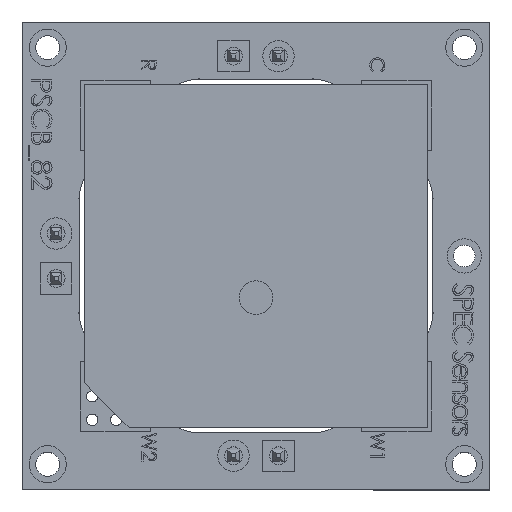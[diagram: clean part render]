
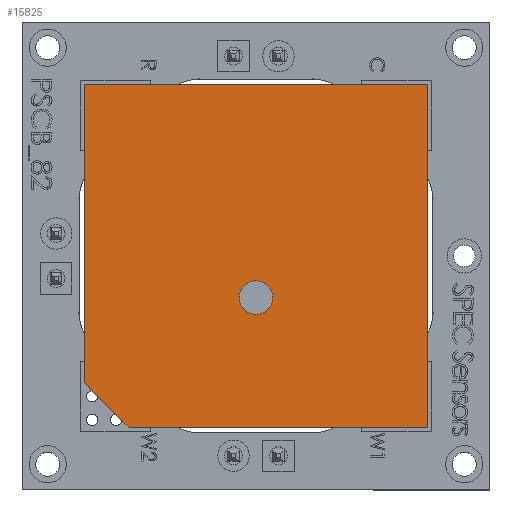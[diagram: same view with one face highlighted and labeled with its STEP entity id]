
A CAD part, top view. The second image highlights one B-rep face of the part: STEP entity #15825.
In plain terms, the highlighted planar face has unit normal (0, 0, 1).
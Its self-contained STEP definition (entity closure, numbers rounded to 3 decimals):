
#1086 = AXIS2_PLACEMENT_3D ( 'NONE', #10321, #15384, #26836 ) ;
#1253 = VECTOR ( 'NONE', #8046, 1000. ) ;
#1806 = CARTESIAN_POINT ( 'NONE',  ( -4.712, 7.089, 0.389 ) ) ;
#2080 = ORIENTED_EDGE ( 'NONE', *, *, #3261, .T. ) ;
#3261 = EDGE_CURVE ( 'NONE', #25917, #27817, #27527, .T. ) ;
#3921 = ORIENTED_EDGE ( 'NONE', *, *, #25124, .T. ) ;
#4448 = FACE_BOUND ( 'NONE', #22684, .T. ) ;
#5963 = LINE ( 'NONE', #25306, #12448 ) ;
#6017 = CARTESIAN_POINT ( 'NONE',  ( -18.012, 7.089, 0.389 ) ) ;
#8046 = DIRECTION ( 'NONE',  ( -1., 0., 0. ) ) ;
#8340 = DIRECTION ( 'NONE',  ( 0., 1., 0. ) ) ;
#9305 = VECTOR ( 'NONE', #19010, 1000. ) ;
#9444 = DIRECTION ( 'NONE',  ( 1., 0., 0. ) ) ;
#9695 = CARTESIAN_POINT ( 'NONE',  ( 0., 0., 0.389 ) ) ;
#10036 = LINE ( 'NONE', #6017, #16098 ) ;
#10197 = CARTESIAN_POINT ( 'NONE',  ( -20.012, 9.089, 0.389 ) ) ;
#10321 = CARTESIAN_POINT ( 'NONE',  ( -12.362, 12.884, 0.389 ) ) ;
#11395 = ORIENTED_EDGE ( 'NONE', *, *, #34583, .T. ) ;
#12235 = DIRECTION ( 'NONE',  ( 0., 0., 1. ) ) ;
#12245 = VERTEX_POINT ( 'NONE', #1806 ) ;
#12448 = VECTOR ( 'NONE', #19346, 1000. ) ;
#15107 = VECTOR ( 'NONE', #8340, 1000. ) ;
#15384 = DIRECTION ( 'NONE',  ( 0., 0., 1. ) ) ;
#15825 = ADVANCED_FACE ( 'NONE', ( #4448, #34011 ), #28999, .T. ) ;
#15826 = CARTESIAN_POINT ( 'NONE',  ( -20.012, 22.389, 0.389 ) ) ;
#15929 = LINE ( 'NONE', #15826, #1253 ) ;
#16098 = VECTOR ( 'NONE', #23469, 1000. ) ;
#16687 = ORIENTED_EDGE ( 'NONE', *, *, #24224, .T. ) ;
#16754 = CARTESIAN_POINT ( 'NONE',  ( -4.712, 22.389, 0.389 ) ) ;
#18347 = EDGE_CURVE ( 'NONE', #35644, #28709, #15929, .T. ) ;
#19010 = DIRECTION ( 'NONE',  ( 0.707, -0.707, 0. ) ) ;
#19346 = DIRECTION ( 'NONE',  ( 0., -1., 0. ) ) ;
#19748 = VERTEX_POINT ( 'NONE', #20359 ) ;
#20359 = CARTESIAN_POINT ( 'NONE',  ( -11.612, 12.884, 0.389 ) ) ;
#21300 = ORIENTED_EDGE ( 'NONE', *, *, #18347, .T. ) ;
#22684 = EDGE_LOOP ( 'NONE', ( #32651 ) ) ;
#23469 = DIRECTION ( 'NONE',  ( 1., 0., 0. ) ) ;
#24224 = EDGE_CURVE ( 'NONE', #12245, #35644, #32559, .T. ) ;
#25124 = EDGE_CURVE ( 'NONE', #28709, #25917, #5963, .T. ) ;
#25306 = CARTESIAN_POINT ( 'NONE',  ( -20.012, 22.389, 0.389 ) ) ;
#25742 = AXIS2_PLACEMENT_3D ( 'NONE', #9695, #12235, #9444 ) ;
#25917 = VERTEX_POINT ( 'NONE', #10197 ) ;
#26836 = DIRECTION ( 'NONE',  ( 1., 0., 0. ) ) ;
#27527 = LINE ( 'NONE', #35652, #9305 ) ;
#27817 = VERTEX_POINT ( 'NONE', #35961 ) ;
#28709 = VERTEX_POINT ( 'NONE', #31990 ) ;
#28999 = PLANE ( 'NONE',  #25742 ) ;
#29409 = CIRCLE ( 'NONE', #1086, 0.75 ) ;
#29927 = EDGE_CURVE ( 'NONE', #19748, #19748, #29409, .T. ) ;
#31653 = EDGE_LOOP ( 'NONE', ( #16687, #21300, #3921, #2080, #11395 ) ) ;
#31990 = CARTESIAN_POINT ( 'NONE',  ( -20.012, 22.389, 0.389 ) ) ;
#32559 = LINE ( 'NONE', #33157, #15107 ) ;
#32651 = ORIENTED_EDGE ( 'NONE', *, *, #29927, .F. ) ;
#33157 = CARTESIAN_POINT ( 'NONE',  ( -4.712, 22.389, 0.389 ) ) ;
#34011 = FACE_OUTER_BOUND ( 'NONE', #31653, .T. ) ;
#34583 = EDGE_CURVE ( 'NONE', #27817, #12245, #10036, .T. ) ;
#35644 = VERTEX_POINT ( 'NONE', #16754 ) ;
#35652 = CARTESIAN_POINT ( 'NONE',  ( -20.012, 9.089, 0.389 ) ) ;
#35961 = CARTESIAN_POINT ( 'NONE',  ( -18.012, 7.089, 0.389 ) ) ;
